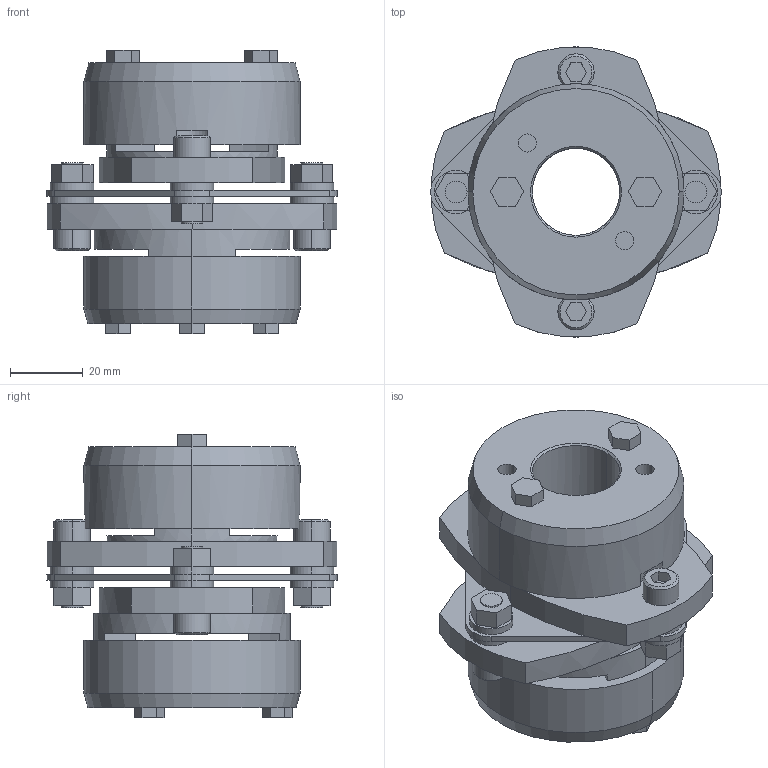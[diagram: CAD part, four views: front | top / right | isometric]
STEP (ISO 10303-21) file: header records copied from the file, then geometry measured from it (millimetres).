
FILE_DESCRIPTION((''),'2;1');
FILE_NAME('LCS-80T7-24×35.stp','2011-09-12T16:40:05',(''),(''),'AutoCAD STEP 2000i','AutoCAD 2000i',', , ');
FILE_SCHEMA(('CONFIG_CONTROL_DESIGN'));
Length unit declared in the file: millimetre
Products named in the file (14): LCS-80T7-24×35; 忣兜1; LC80T7-T035; LC80T7-T032; LC80T7-T030; LC80T7-T028; LC80T7-T024-1; LC80T7-T024; LC80T7-T022; LC80T7-T019-1; LC80T7-T019; LC80T7-T017-1; LC80T7-T017; LCS80-ITA
Assembly tree (13 placements, depth 2):
  LCS-80T7-24×35
    忣兜1
    LC80T7-T035
    LC80T7-T032
    LC80T7-T030
    LC80T7-T028
    LC80T7-T024-1
    LC80T7-T024
    LC80T7-T022
    LC80T7-T019-1
    LC80T7-T019
    LC80T7-T017-1
    LC80T7-T017
    LCS80-ITA
Bounding box: 80 x 79.95 x 78.05 mm (x, y, z)
Volume: 144368.3 mm3; surface area: 43291.9 mm2
Topology: 1 solids, 1 shells, 232 faces, 570 edges, 372 vertices
Faces by surface type: plane 130, cylinder 82, cone 20
Entity records: 7187 total; most frequent: DIRECTION 1274, CARTESIAN_POINT 1188, ORIENTED_EDGE 1140, EDGE_CURVE 570, AXIS2_PLACEMENT_3D 458, VERTEX_POINT 372, VECTOR 358, LINE 358
